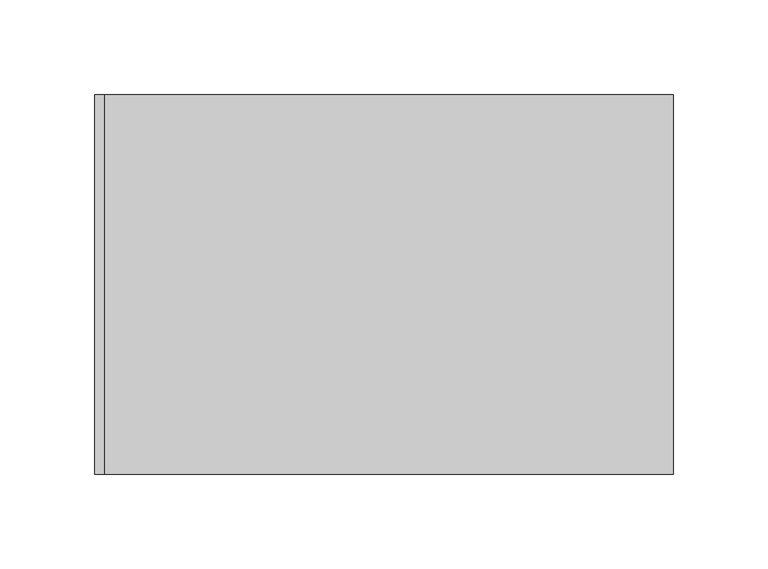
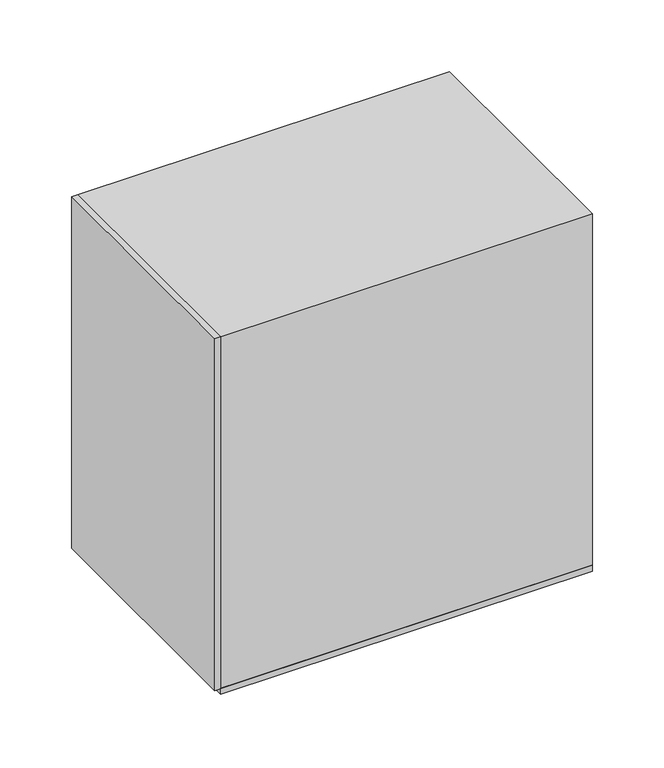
"""IFC4 building model written with IfcOpenShell, lengths in millimetres: proxy geometry, Módulo de Vedação de Concreto Celular - Celucon : MVCC 20x30x60cm (L x A x C) - Metade."""

from ifc_helpers import new_model, si_unit, frame, origin, origin_with_axes, place, context, project, spatial, polyline, outline, extrude, source, transform, mapped, element, save


def generic_models_c234e121(model_context):
    return source(origin(), model_context, "Body", "SweptSolid", [
        extrude(outline(polyline([(150.0, -100.0), (-150.0, -100.0), (-150.0, 100.0), (150.0, 100.0), (150.0, -100.0)])), frame((0.0, 0.0, -5.0), z_axis=(0.0, 0.0, 1.0), x_axis=(1.0, 0.0, 0.0)), (0.0, 0.0, 1.0), 5.0),
        extrude(outline(polyline([(-150.0, -100.0), (-155.0, -100.0), (-155.0, 100.0), (-150.0, 100.0), (-150.0, -100.0)])), origin_with_axes(), (0.0, 0.0, 1.0), 300.0),
        extrude(outline(polyline([(150.0, 100.0), (150.0, -100.0), (-150.0, -100.0), (-150.0, 100.0), (150.0, 100.0)])), origin_with_axes(), (0.0, 0.0, 1.0), 300.0),
    ])


if __name__ == "__main__":
    model = new_model("IFC4")
    model_context = context("Model", 3, world=origin())
    ifc_project = project(units=[si_unit("LENGTHUNIT", "METRE", prefix="MILLI")], contexts=[model_context])
    site = spatial("IfcSite", under=ifc_project)
    building = spatial("IfcBuilding", under=site)
    placement = place(None, origin())
    generic_models_shape = generic_models_c234e121(model_context)
    element("IfcBuildingElementProxy", 1, Name="Módulo de Vedação de Concreto Celular - Celucon : MVCC 20x30x60cm (L x A x C) - Metade", ObjectType="Módulo de Vedação de Concreto Celular - Celucon : MVCC 20x30x60cm (L x A x C) - Metade", at=placement, inside=building, context=model_context, shape_type="MappedRepresentation", body=[
        mapped(generic_models_shape, transform((0.0, 0.0, 0.0), x_axis=(1.0, 0.0, 0.0), y_axis=(0.0, 1.0, 0.0), z_axis=(0.0, 0.0, 1.0))),
    ])
    save(model, "model.ifc")
